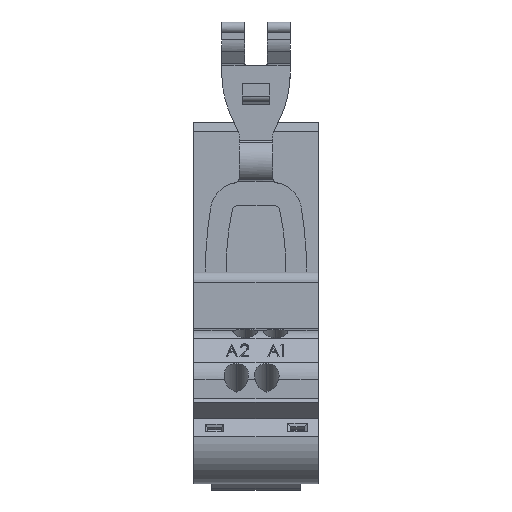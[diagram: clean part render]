
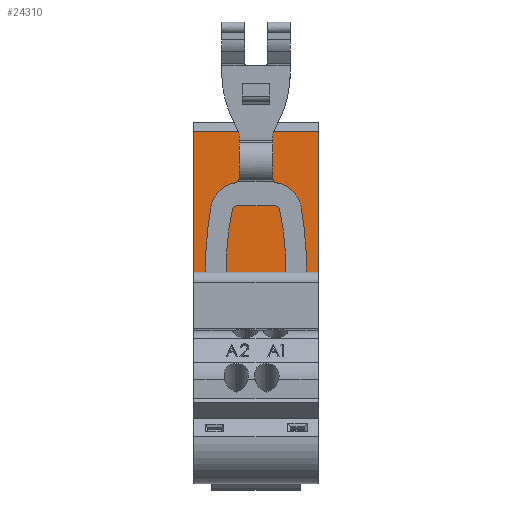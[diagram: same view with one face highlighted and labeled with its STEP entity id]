
A CAD part, front view. The second image highlights one B-rep face of the part: STEP entity #24310.
In plain terms, the highlighted planar face has unit normal (0, -1, 0.018).
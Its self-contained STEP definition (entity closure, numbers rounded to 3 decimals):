
#473 = VERTEX_POINT ( 'NONE', #27446 ) ;
#670 = EDGE_CURVE ( 'NONE', #8908, #473, #21373, .T. ) ;
#2149 = EDGE_CURVE ( 'NONE', #12522, #473, #4427, .T. ) ;
#4427 = LINE ( 'NONE', #4795, #25813 ) ;
#4795 = CARTESIAN_POINT ( 'NONE',  ( 22.5, 54.331, 39.313 ) ) ;
#4999 = AXIS2_PLACEMENT_3D ( 'NONE', #7859, #10190, #24028 ) ;
#5013 = DIRECTION ( 'NONE',  ( 0., -0.017, -1. ) ) ;
#6559 = VECTOR ( 'NONE', #19102, 1000. ) ;
#7142 = FACE_OUTER_BOUND ( 'NONE', #26545, .T. ) ;
#7317 = EDGE_CURVE ( 'NONE', #33135, #8908, #16380, .T. ) ;
#7859 = CARTESIAN_POINT ( 'NONE',  ( 22.5, 54.331, 39.313 ) ) ;
#8329 = DIRECTION ( 'NONE',  ( -1., 0., 0. ) ) ;
#8908 = VERTEX_POINT ( 'NONE', #9823 ) ;
#9679 = VECTOR ( 'NONE', #8329, 1000. ) ;
#9823 = CARTESIAN_POINT ( 'NONE',  ( 0., 54.774, 64.66 ) ) ;
#10021 = PLANE ( 'NONE',  #4999 ) ;
#10190 = DIRECTION ( 'NONE',  ( 0., 1., -0.017 ) ) ;
#12522 = VERTEX_POINT ( 'NONE', #33505 ) ;
#15008 = CARTESIAN_POINT ( 'NONE',  ( 22.5, 54.774, 64.66 ) ) ;
#15717 = DIRECTION ( 'NONE',  ( -1., 0., 0. ) ) ;
#16380 = LINE ( 'NONE', #25182, #9679 ) ;
#19073 = ORIENTED_EDGE ( 'NONE', *, *, #2149, .F. ) ;
#19102 = DIRECTION ( 'NONE',  ( 0., -0.017, -1. ) ) ;
#19587 = ORIENTED_EDGE ( 'NONE', *, *, #670, .T. ) ;
#21373 = LINE ( 'NONE', #29782, #23383 ) ;
#23383 = VECTOR ( 'NONE', #5013, 1000. ) ;
#24028 = DIRECTION ( 'NONE',  ( 0., 0.017, 1. ) ) ;
#24310 = ADVANCED_FACE ( 'NONE', ( #7142 ), #10021, .F. ) ;
#25182 = CARTESIAN_POINT ( 'NONE',  ( 22.5, 54.774, 64.66 ) ) ;
#25392 = ORIENTED_EDGE ( 'NONE', *, *, #7317, .T. ) ;
#25813 = VECTOR ( 'NONE', #15717, 1000. ) ;
#26545 = EDGE_LOOP ( 'NONE', ( #19587, #19073, #27444, #25392 ) ) ;
#27444 = ORIENTED_EDGE ( 'NONE', *, *, #33884, .F. ) ;
#27446 = CARTESIAN_POINT ( 'NONE',  ( 0., 54.331, 39.313 ) ) ;
#29782 = CARTESIAN_POINT ( 'NONE',  ( 0., 54.331, 39.313 ) ) ;
#33135 = VERTEX_POINT ( 'NONE', #15008 ) ;
#33505 = CARTESIAN_POINT ( 'NONE',  ( 22.5, 54.331, 39.313 ) ) ;
#33695 = LINE ( 'NONE', #34039, #6559 ) ;
#33884 = EDGE_CURVE ( 'NONE', #33135, #12522, #33695, .T. ) ;
#34039 = CARTESIAN_POINT ( 'NONE',  ( 22.5, 54.331, 39.313 ) ) ;
